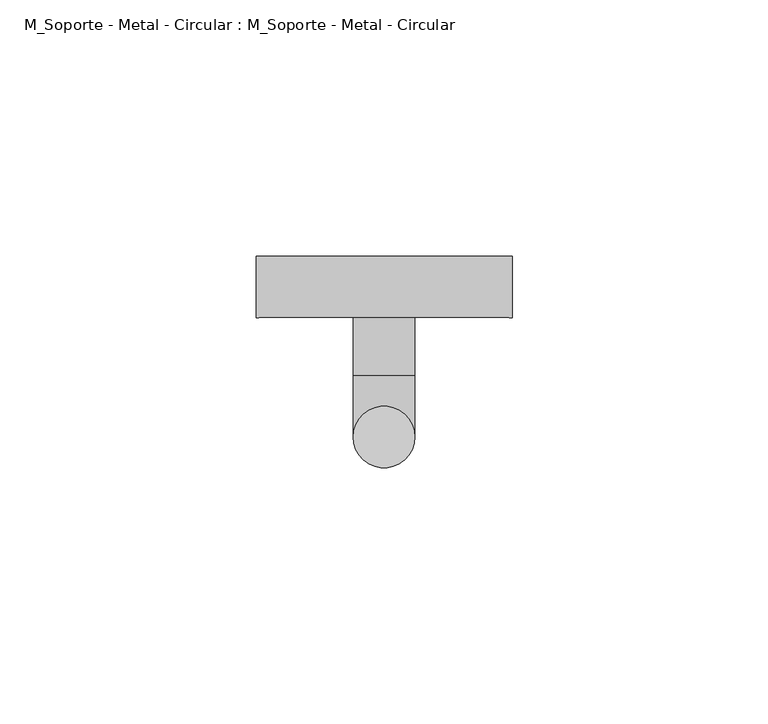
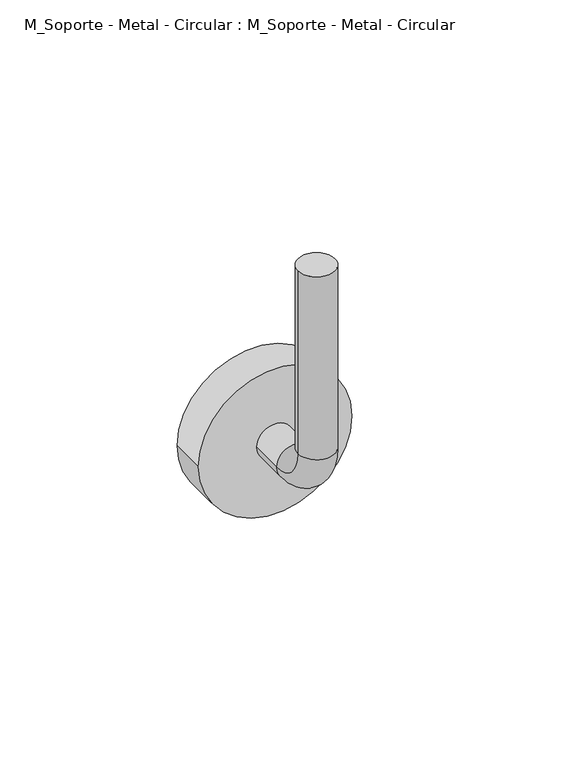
"""IFC4 building model written with IfcOpenShell, lengths in millimetres: proxy geometry, M_Soporte - Metal - Circular : M_Soporte - Metal - Circular."""

from ifc_helpers import new_model, si_unit, point, frame, frame_2d, origin, origin_with_axes, place, context, project, spatial, circle_curve, ellipse_curve, trimmed, segment, composite_curve, outline, extrude, source, transform, mapped, element, save
from ifc_brep_helpers import plane_surface, cylinder_surface, revolved_surface, advanced_brep


def m_soporte_metal_circular_m_soporte_metal_circular_16798473(model_context):
    return source(origin(), model_context, "Body", "SolidModel", [
        advanced_brep(
        [(-6.0, 0.0, 0.0), (6.0, 0.0, 0.0), (-6.0, 0.0, -63.0), (6.0, 0.0, -63.0), (6.0, 12.0, -75.0), (-6.0, 12.0, -75.0), (-6.0, 23.3553391, -75.0), (6.0, 23.3553391, -75.0)],
        [
            (0, 1, circle_curve(origin_with_axes(), 6.0)),
            (1, 0, circle_curve(origin_with_axes(), 6.0)),
            (0, 2),
            (2, 3, circle_curve(frame((0.0, 0.0, -63.0), z_axis=(0.0, 0.0, 1.0), x_axis=(1.0, 0.0, 0.0)), 6.0)),
            (3, 1),
            (3, 2, circle_curve(frame((0.0, 0.0, -63.0), z_axis=(0.0, 0.0, 1.0), x_axis=(1.0, 0.0, 0.0)), 6.0)),
            (4, 3, circle_curve(frame((6.0, 12.0, -63.0), z_axis=(-1.0, 0.0, 0.0), x_axis=(0.0, -1.0, 0.0)), 12.0)),
            (2, 5, circle_curve(frame((-6.0, 12.0, -63.0), z_axis=(1.0, 0.0, 0.0), x_axis=(0.0, -1.0, 0.0)), 12.0)),
            (5, 4, circle_curve(frame((0.0, 12.0, -75.0), z_axis=(0.0, -1.0, 0.0), x_axis=(1.0, 0.0, 0.0)), 6.0)),
            (4, 5, circle_curve(frame((0.0, 12.0, -75.0), z_axis=(0.0, -1.0, 0.0), x_axis=(1.0, 0.0, 0.0)), 6.0)),
            (6, 7, circle_curve(frame((0.0, 23.3553391, -75.0), z_axis=(0.0, 1.0, 0.0), x_axis=(1.0, 0.0, 0.0)), 6.0)),
            (7, 6, circle_curve(frame((0.0, 23.3553391, -75.0), z_axis=(0.0, 1.0, 0.0), x_axis=(1.0, 0.0, 0.0)), 6.0)),
            (5, 6),
            (7, 4),
        ],
        [
            plane_surface(origin_with_axes()),
            cylinder_surface(origin_with_axes(), 6.0),
            revolved_surface(trimmed(ellipse_curve(frame((0.0, 0.0, -63.0), z_axis=(0.0, 0.0, 1.0), x_axis=(1.0, 0.0, 0.0)), 6.0, 6.0), [point((-6.0, 0.0, -63.0))], [point((6.0, 0.0, -63.0))], True, "CARTESIAN"), (0.0, 12.0, -63.0), (1.0, 0.0, 0.0)),
            revolved_surface(trimmed(ellipse_curve(frame((0.0, 0.0, -63.0), z_axis=(0.0, 0.0, 1.0), x_axis=(1.0, 0.0, 0.0)), 6.0, 6.0), [point((6.0, 0.0, -63.0))], [point((-6.0, 0.0, -63.0))], True, "CARTESIAN"), (0.0, 12.0, -63.0), (1.0, 0.0, 0.0)),
            plane_surface(frame((0.0, 23.3553391, -75.0), z_axis=(0.0, 1.0, 0.0), x_axis=(1.0, 0.0, 0.0))),
            cylinder_surface(frame((0.0, 12.0, -75.0), z_axis=(0.0, -1.0, 0.0), x_axis=(1.0, 0.0, 0.0)), 6.0),
        ],
        [
            (0, [[1, 2]]),
            (1, [[-1, 3, 4, 5]]),
            (1, [[-2, -5, 6, -3]]),
            (2, [[7, -4, 8, 9]]),
            (3, [[-8, -6, -7, 10]]),
            (4, [[11, 12]]),
            (5, [[-9, 13, -12, 14]]),
            (5, [[-10, -14, -11, -13]]),
        ],
    ),
        extrude(outline(composite_curve([segment(trimmed(circle_curve(frame_2d((-75.0, 0.0)), 25.0), [point((-75.0, -25.0))], [point((-75.0, 25.0))], False, "CARTESIAN"), True, "CONTINUOUS"), segment(trimmed(circle_curve(frame_2d((-75.0, 0.0)), 25.0), [point((-75.0, 25.0))], [point((-75.0, -25.0))], False, "CARTESIAN"), True, "CONTINUOUS")], self_intersect=False)), frame((0.0, 23.3553391, 0.0), z_axis=(0.0, 1.0, 0.0), x_axis=(0.0, 0.0, 1.0)), (0.0, 0.0, 1.0), 12.0),
    ])


if __name__ == "__main__":
    model = new_model("IFC4")
    model_context = context("Model", 3, world=origin())
    ifc_project = project(units=[si_unit("LENGTHUNIT", "METRE", prefix="MILLI")], contexts=[model_context])
    site = spatial("IfcSite", under=ifc_project)
    building = spatial("IfcBuilding", under=site)
    placement = place(None, origin())
    m_soporte_metal_circular_m_soporte_metal_circular_shape = m_soporte_metal_circular_m_soporte_metal_circular_16798473(model_context)
    element("IfcBuildingElementProxy", 1, Name="M_Soporte - Metal - Circular : M_Soporte - Metal - Circular", ObjectType="M_Soporte - Metal - Circular : M_Soporte - Metal - Circular", at=placement, inside=building, context=model_context, shape_type="MappedRepresentation", body=[
        mapped(m_soporte_metal_circular_m_soporte_metal_circular_shape, transform((0.0, 0.0, 0.0), x_axis=(1.0, 0.0, 0.0), y_axis=(0.0, 1.0, 0.0), z_axis=(0.0, 0.0, 1.0))),
    ])
    save(model, "model.ifc")
